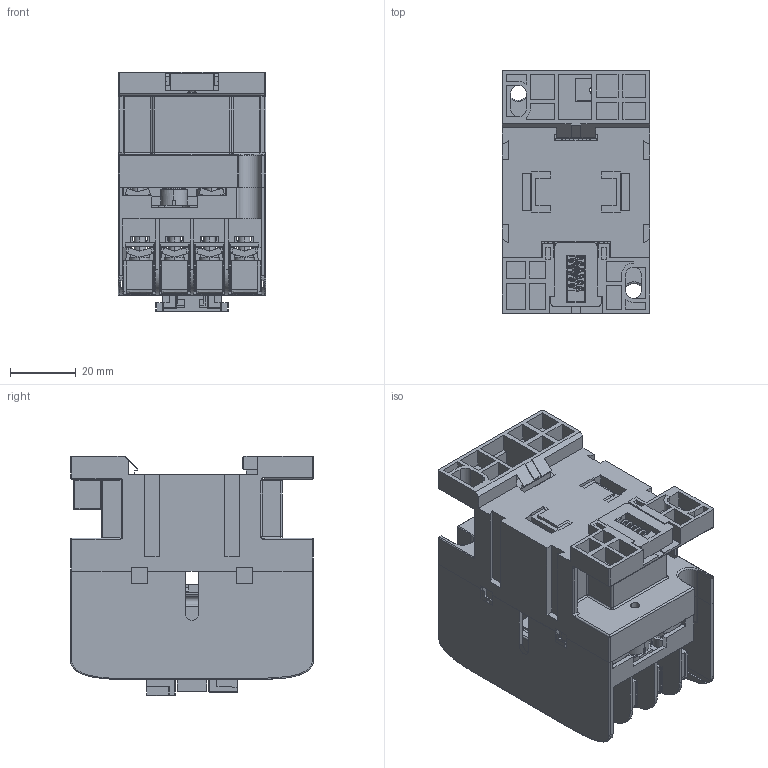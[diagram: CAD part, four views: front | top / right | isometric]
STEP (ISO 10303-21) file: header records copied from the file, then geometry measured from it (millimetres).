
FILE_DESCRIPTION((''),'2;1');
FILE_NAME('2TZD_401_1016_SW0002','2022-04-09T',('wangchen1'),(''),'PRO/ENGINEER BY PARAMETRIC TECHNOLOGY CORPORATION, 2017170','PRO/ENGINEER BY PARAMETRIC TECHNOLOGY CORPORATION, 2017170','');
FILE_SCHEMA(('CONFIG_CONTROL_DESIGN'));
Products named in the file (1): 2TZD_401_1016_SW0002
Bounding box: 45 x 74 x 73 mm (x, y, z)
Surface area: 82301 mm2 (no closed solid volume)
Topology: 0 solids, 71 shells, 1982 faces, 10632 edges, 8288 vertices
Faces by surface type: plane 1575, cylinder 325, bspline 26, sphere 22, cone 20, torus 14
Entity records: 122591 total; most frequent: CARTESIAN_POINT 27000, DIRECTION 15698, ORIENTED_EDGE 15323, EDGE_CURVE 10632, VECTOR 8906, LINE 8906, VERTEX_POINT 8288, AXIS2_PLACEMENT_3D 3396
